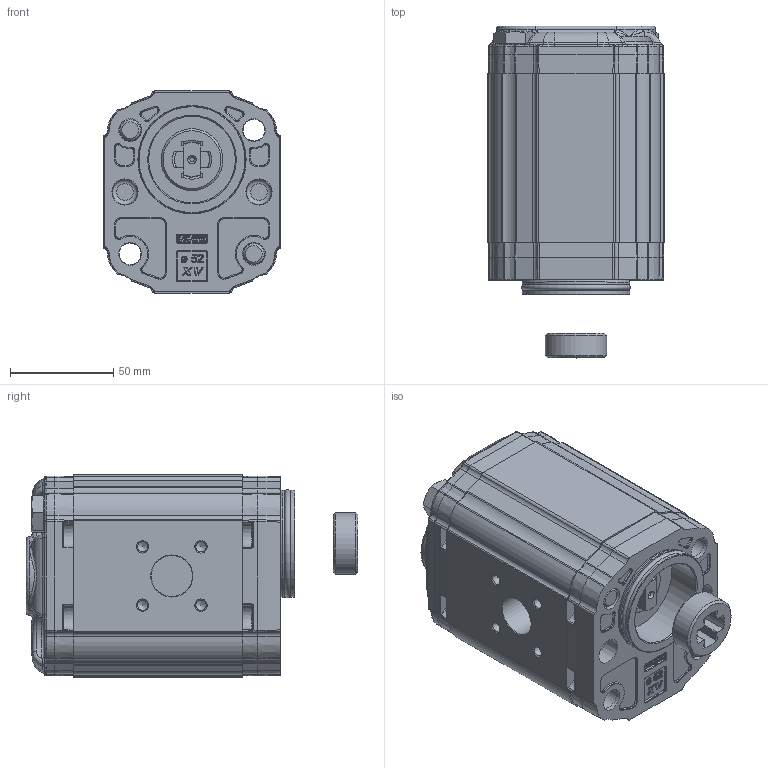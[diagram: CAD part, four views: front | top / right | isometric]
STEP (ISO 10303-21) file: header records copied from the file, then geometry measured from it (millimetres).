
FILE_DESCRIPTION(/* description */ ('Unknown'),/* implementation_level */ '2;1');
FILE_NAME(/* name */ 'X2R5719CSSF',/* time_stamp */ '2026-06-03T18:24:29+02:00',/* author */ ('Unknown'),/* organization */ ('Unknown'),/* preprocessor_version */ 'ST-DEVELOPER v16.7',/* originating_system */ 'Solid Edge',/* authorisation */ 'Unknown');
FILE_SCHEMA (('AUTOMOTIVE_DESIGN {1 0 10303 214 3 1 1}'));
Products named in the file (5): X2R5719CSSF; X2R19; 2C; X2SSH82; XR216-F
Assembly tree (4 placements, depth 2):
  X2R5719CSSF
    X2R19
    2C
    X2SSH82
    XR216-F
Bounding box: 86 x 161 x 98 mm (x, y, z)
Volume: 847315.5 mm3; surface area: 115316.9 mm2
Topology: 5 solids, 9 shells, 2492 faces, 6084 edges, 3673 vertices
Faces by surface type: cylinder 711, plane 634, bspline 612, cone 272, torus 203, sphere 60
Full cylindrical faces by diameter (mm): 2 x1, 5 x8, 10 x6, 10.5 x8, 11 x2, 16 x2, 16.8 x1, 17.42 x1, 20 x2, 23 x1, 25 x1, 30 x1, 42 x1, 47.8 x2, 52 x2
Entity records: 116294 total; most frequent: CARTESIAN_POINT 46160, ORIENTED_EDGE 11706, DIRECTION 9637, EDGE_CURVE 5853, AXIS2_PLACEMENT_3D 3768, VERTEX_POINT 3619, FACE_BOUND 2752, EDGE_LOOP 2743
